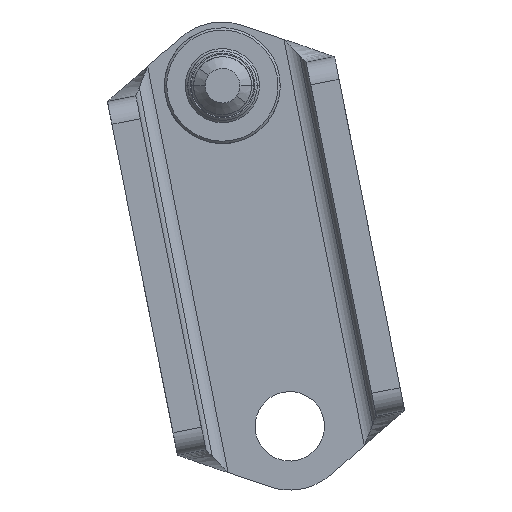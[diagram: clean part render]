
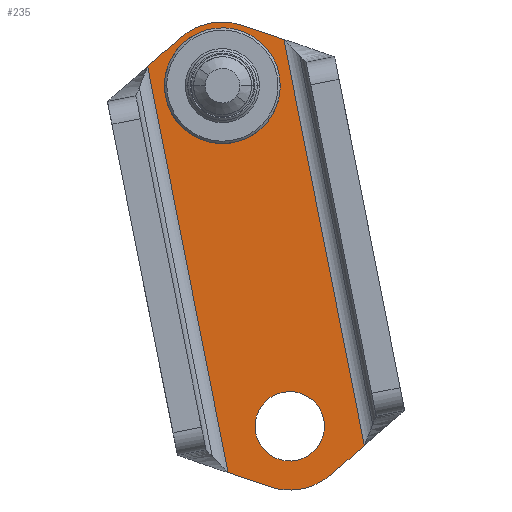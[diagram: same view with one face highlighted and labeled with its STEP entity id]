
A CAD part, front view. The second image highlights one B-rep face of the part: STEP entity #235.
In plain terms, the highlighted planar face has unit normal (0.001, -1, 0).
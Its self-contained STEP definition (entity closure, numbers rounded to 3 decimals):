
#98=VECTOR('Line Direction',#97,1.) ;
#107=VECTOR('Line Direction',#106,1.) ;
#128=VECTOR('Line Direction',#127,1.) ;
#135=VECTOR('Line Direction',#134,1.) ;
#142=VECTOR('Line Direction',#141,1.) ;
#175=VECTOR('Line Direction',#174,1.) ;
#92=DIRECTION('Axis2P3D Direction',(0.001,-1.,0.)) ;
#93=DIRECTION('Axis2P3D XDirection',(0.981,0.001,0.194)) ;
#97=DIRECTION('Vector Direction',(0.194,0.,-0.981)) ;
#106=DIRECTION('Vector Direction',(-0.947,-0.001,0.322)) ;
#113=DIRECTION('Axis2P3D Direction',(0.001,-1.,0.)) ;
#120=DIRECTION('Axis2P3D Direction',(0.001,-1.,0.)) ;
#127=DIRECTION('Vector Direction',(0.752,0.001,0.659)) ;
#134=DIRECTION('Vector Direction',(-0.194,0.,0.981)) ;
#141=DIRECTION('Vector Direction',(0.947,0.001,-0.322)) ;
#174=DIRECTION('Vector Direction',(-0.752,-0.001,-0.659)) ;
#191=DIRECTION('Axis2P3D Direction',(0.001,-1.,0.)) ;
#200=DIRECTION('Axis2P3D Direction',(0.001,-1.,0.)) ;
#51=CARTESIAN_POINT('Control Point',(905.598,-646.214,366.629)) ;
#52=CARTESIAN_POINT('Control Point',(905.598,-646.214,365.686)) ;
#53=CARTESIAN_POINT('Control Point',(905.227,-646.214,364.744)) ;
#54=CARTESIAN_POINT('Control Point',(904.483,-646.215,363.999)) ;
#55=CARTESIAN_POINT('Control Point',(902.598,-646.216,363.259)) ;
#56=CARTESIAN_POINT('Control Point',(900.713,-646.218,363.999)) ;
#57=CARTESIAN_POINT('Control Point',(899.968,-646.218,364.744)) ;
#58=CARTESIAN_POINT('Control Point',(899.598,-646.218,365.686)) ;
#59=CARTESIAN_POINT('Control Point',(899.598,-646.218,366.629)) ;
#60=CARTESIAN_POINT('Vertex',(899.598,-646.218,366.629)) ;
#62=CARTESIAN_POINT('Vertex',(905.598,-646.214,366.629)) ;
#91=CARTESIAN_POINT('Axis2P3D Location',(886.116,-646.229,321.161)) ;
#96=CARTESIAN_POINT('Line Origine',(911.397,-646.209,353.08)) ;
#100=CARTESIAN_POINT('Vertex',(914.872,-646.207,335.534)) ;
#102=CARTESIAN_POINT('Vertex',(907.922,-646.212,370.626)) ;
#105=CARTESIAN_POINT('Line Origine',(906.146,-646.213,371.231)) ;
#109=CARTESIAN_POINT('Vertex',(904.37,-646.215,371.836)) ;
#112=CARTESIAN_POINT('Axis2P3D Location',(902.597,-646.216,366.629)) ;
#116=CARTESIAN_POINT('Vertex',(901.529,-646.217,372.024)) ;
#119=CARTESIAN_POINT('Axis2P3D Location',(902.597,-646.216,366.629)) ;
#123=CARTESIAN_POINT('Vertex',(898.975,-646.219,370.767)) ;
#126=CARTESIAN_POINT('Line Origine',(897.563,-646.22,369.531)) ;
#130=CARTESIAN_POINT('Vertex',(896.151,-646.221,368.295)) ;
#133=CARTESIAN_POINT('Line Origine',(899.626,-646.218,350.749)) ;
#137=CARTESIAN_POINT('Vertex',(903.1,-646.216,333.203)) ;
#140=CARTESIAN_POINT('Line Origine',(904.877,-646.214,332.599)) ;
#144=CARTESIAN_POINT('Vertex',(906.653,-646.213,331.994)) ;
#148=CARTESIAN_POINT('Control Point',(909.494,-646.211,331.805)) ;
#149=CARTESIAN_POINT('Control Point',(908.93,-646.211,331.694)) ;
#150=CARTESIAN_POINT('Control Point',(908.352,-646.212,331.656)) ;
#151=CARTESIAN_POINT('Control Point',(907.772,-646.212,331.694)) ;
#152=CARTESIAN_POINT('Control Point',(907.203,-646.213,331.807)) ;
#153=CARTESIAN_POINT('Control Point',(906.657,-646.213,331.992)) ;
#154=CARTESIAN_POINT('Control Point',(906.656,-646.213,331.993)) ;
#155=CARTESIAN_POINT('Control Point',(906.654,-646.213,331.993)) ;
#156=CARTESIAN_POINT('Control Point',(906.653,-646.213,331.994)) ;
#157=CARTESIAN_POINT('Vertex',(909.494,-646.211,331.805)) ;
#161=CARTESIAN_POINT('Control Point',(912.048,-646.209,333.062)) ;
#162=CARTESIAN_POINT('Control Point',(911.616,-646.209,332.684)) ;
#163=CARTESIAN_POINT('Control Point',(911.134,-646.21,332.362)) ;
#164=CARTESIAN_POINT('Control Point',(910.613,-646.21,332.105)) ;
#165=CARTESIAN_POINT('Control Point',(910.063,-646.21,331.919)) ;
#166=CARTESIAN_POINT('Control Point',(909.498,-646.211,331.806)) ;
#167=CARTESIAN_POINT('Control Point',(909.497,-646.211,331.806)) ;
#168=CARTESIAN_POINT('Control Point',(909.495,-646.211,331.806)) ;
#169=CARTESIAN_POINT('Control Point',(909.494,-646.211,331.805)) ;
#170=CARTESIAN_POINT('Vertex',(912.048,-646.209,333.062)) ;
#173=CARTESIAN_POINT('Line Origine',(913.46,-646.208,334.298)) ;
#190=CARTESIAN_POINT('Axis2P3D Location',(908.425,-646.212,337.201)) ;
#194=CARTESIAN_POINT('Vertex',(911.199,-646.209,338.344)) ;
#196=CARTESIAN_POINT('Vertex',(905.652,-646.214,336.057)) ;
#199=CARTESIAN_POINT('Axis2P3D Location',(908.425,-646.212,337.201)) ;
#209=CARTESIAN_POINT('Control Point',(899.598,-646.218,366.629)) ;
#210=CARTESIAN_POINT('Control Point',(899.598,-646.218,366.968)) ;
#211=CARTESIAN_POINT('Control Point',(899.646,-646.218,367.308)) ;
#212=CARTESIAN_POINT('Control Point',(899.742,-646.218,367.638)) ;
#213=CARTESIAN_POINT('Control Point',(900.024,-646.218,368.263)) ;
#214=CARTESIAN_POINT('Control Point',(900.469,-646.218,368.784)) ;
#215=CARTESIAN_POINT('Control Point',(900.727,-646.218,369.012)) ;
#216=CARTESIAN_POINT('Control Point',(901.301,-646.217,369.387)) ;
#217=CARTESIAN_POINT('Control Point',(901.956,-646.217,369.589)) ;
#218=CARTESIAN_POINT('Control Point',(902.296,-646.216,369.643)) ;
#219=CARTESIAN_POINT('Control Point',(902.981,-646.216,369.653)) ;
#220=CARTESIAN_POINT('Control Point',(903.643,-646.215,369.472)) ;
#221=CARTESIAN_POINT('Control Point',(903.958,-646.215,369.335)) ;
#222=CARTESIAN_POINT('Control Point',(904.542,-646.215,368.976)) ;
#223=CARTESIAN_POINT('Control Point',(905.004,-646.214,368.469)) ;
#224=CARTESIAN_POINT('Control Point',(905.197,-646.214,368.184)) ;
#225=CARTESIAN_POINT('Control Point',(905.43,-646.214,367.706)) ;
#226=CARTESIAN_POINT('Control Point',(905.553,-646.214,367.191)) ;
#227=CARTESIAN_POINT('Control Point',(905.583,-646.214,367.005)) ;
#228=CARTESIAN_POINT('Control Point',(905.598,-646.214,366.817)) ;
#229=CARTESIAN_POINT('Control Point',(905.598,-646.214,366.629)) ;
#94=AXIS2_PLACEMENT_3D('Plane Axis2P3D',#91,#92,#93) ;
#114=AXIS2_PLACEMENT_3D('Circle Axis2P3D',#112,#113,$) ;
#121=AXIS2_PLACEMENT_3D('Circle Axis2P3D',#119,#120,$) ;
#192=AXIS2_PLACEMENT_3D('Circle Axis2P3D',#190,#191,$) ;
#201=AXIS2_PLACEMENT_3D('Circle Axis2P3D',#199,#200,$) ;
#207=FACE_BOUND('',#204,.T.) ;
#234=FACE_BOUND('',#231,.T.) ;
#64=EDGE_CURVE('',#61,#63,#50,.F.) ;
#104=EDGE_CURVE('',#101,#103,#99,.F.) ;
#111=EDGE_CURVE('',#103,#110,#108,.T.) ;
#118=EDGE_CURVE('',#110,#117,#115,.T.) ;
#125=EDGE_CURVE('',#124,#117,#122,.F.) ;
#132=EDGE_CURVE('',#131,#124,#129,.T.) ;
#139=EDGE_CURVE('',#138,#131,#136,.T.) ;
#146=EDGE_CURVE('',#138,#145,#143,.T.) ;
#159=EDGE_CURVE('',#145,#158,#147,.F.) ;
#172=EDGE_CURVE('',#171,#158,#160,.T.) ;
#177=EDGE_CURVE('',#101,#171,#176,.T.) ;
#198=EDGE_CURVE('',#195,#197,#193,.F.) ;
#203=EDGE_CURVE('',#197,#195,#202,.F.) ;
#230=EDGE_CURVE('',#63,#61,#208,.F.) ;
#95=PLANE('Plane',#94) ;
#179=ORIENTED_EDGE('',*,*,#104,.T.) ;
#180=ORIENTED_EDGE('',*,*,#111,.T.) ;
#181=ORIENTED_EDGE('',*,*,#118,.T.) ;
#182=ORIENTED_EDGE('',*,*,#125,.F.) ;
#183=ORIENTED_EDGE('',*,*,#132,.F.) ;
#184=ORIENTED_EDGE('',*,*,#139,.F.) ;
#185=ORIENTED_EDGE('',*,*,#146,.T.) ;
#186=ORIENTED_EDGE('',*,*,#159,.T.) ;
#187=ORIENTED_EDGE('',*,*,#172,.F.) ;
#188=ORIENTED_EDGE('',*,*,#177,.F.) ;
#205=ORIENTED_EDGE('',*,*,#198,.T.) ;
#206=ORIENTED_EDGE('',*,*,#203,.T.) ;
#232=ORIENTED_EDGE('',*,*,#64,.F.) ;
#233=ORIENTED_EDGE('',*,*,#230,.F.) ;
#99=LINE('Line',#96,#98) ;
#108=LINE('Line',#105,#107) ;
#129=LINE('Line',#126,#128) ;
#136=LINE('Line',#133,#135) ;
#143=LINE('Line',#140,#142) ;
#176=LINE('Line',#173,#175) ;
#235=ADVANCED_FACE('\X2\96F64EF651E04F554F53\X0\',(#189,#207,#234),#95,.T.) ;
#115=CIRCLE('generated circle',#114,5.5) ;
#122=CIRCLE('generated circle',#121,5.5) ;
#193=CIRCLE('generated circle',#192,3.) ;
#202=CIRCLE('generated circle',#201,3.) ;
#61=VERTEX_POINT('',#60) ;
#63=VERTEX_POINT('',#62) ;
#101=VERTEX_POINT('',#100) ;
#103=VERTEX_POINT('',#102) ;
#110=VERTEX_POINT('',#109) ;
#117=VERTEX_POINT('',#116) ;
#124=VERTEX_POINT('',#123) ;
#131=VERTEX_POINT('',#130) ;
#138=VERTEX_POINT('',#137) ;
#145=VERTEX_POINT('',#144) ;
#158=VERTEX_POINT('',#157) ;
#171=VERTEX_POINT('',#170) ;
#195=VERTEX_POINT('',#194) ;
#197=VERTEX_POINT('',#196) ;
#50=B_SPLINE_CURVE_WITH_KNOTS('',5,(#51,#52,#53,#54,#55,#56,#57,#58,#59),.UNSPECIFIED.,.F.,.U.,(6,3,6),(-4.712,0.,4.712),.UNSPECIFIED.) ;
#147=B_SPLINE_CURVE_WITH_KNOTS('',5,(#148,#149,#150,#151,#152,#153,#154,#155,#156),.UNSPECIFIED.,.F.,.U.,(6,3,6),(0.,4.073,4.084),.UNSPECIFIED.) ;
#160=B_SPLINE_CURVE_WITH_KNOTS('',5,(#161,#162,#163,#164,#165,#166,#167,#168,#169),.UNSPECIFIED.,.F.,.U.,(6,3,6),(0.,4.073,4.084),.UNSPECIFIED.) ;
#208=B_SPLINE_CURVE_WITH_KNOTS('',5,(#209,#210,#211,#212,#213,#214,#215,#216,#217,#218,#219,#220,#221,#222,#223,#224,#225,#226,#227,#228,#229),.UNSPECIFIED.,.F.,.U.,(6,3,3,3,3,3,6),(0.,2.407,4.815,7.222,9.629,12.037,13.37),.UNSPECIFIED.) ;
#178=EDGE_LOOP('',(#179,#180,#181,#182,#183,#184,#185,#186,#187,#188)) ;
#204=EDGE_LOOP('',(#205,#206)) ;
#231=EDGE_LOOP('',(#232,#233)) ;
#189=FACE_OUTER_BOUND('',#178,.T.) ;
